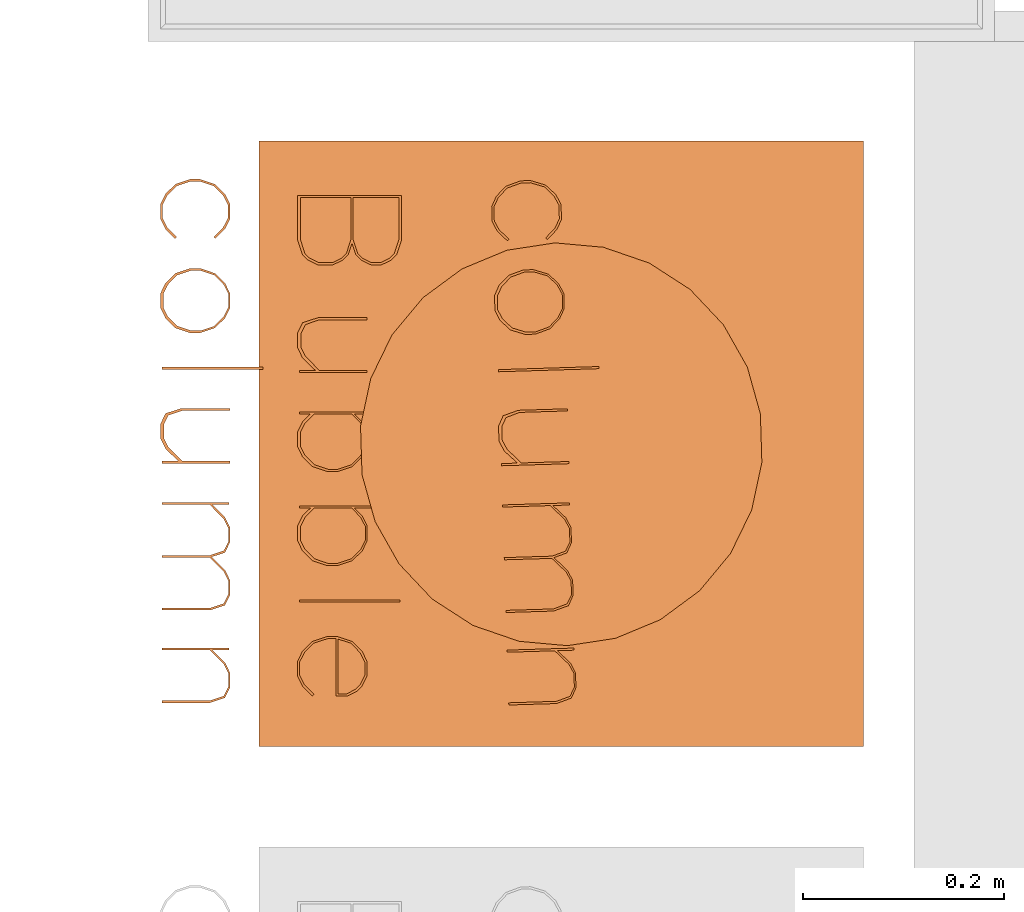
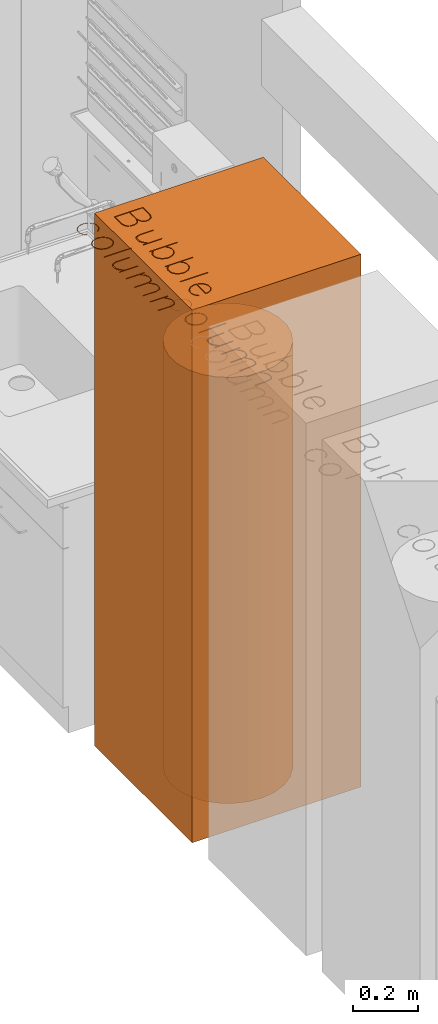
# One storey, part 23 of 43: 2 proxies.
"""IFC2X3 building model written with IfcOpenShell, lengths in metres."""

from ifc_helpers import new_model, entity, si_unit, converted_unit, derived_unit, direction, frame, origin, place, context, subcontext, project, spatial, face_set, surface_model, source, transform, mapped, material, material_list, type_object, type_shapes, element, save


model = new_model("IFC2X3")

# Units and contexts
model_context = context("Model", 3, precision=1e-05, world=origin(), true_north=direction((6.12303176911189e-17, 1.0)))
body_context = subcontext(model_context, "Body", "Model", "MODEL_VIEW")
ifc_project = project(units=[si_unit("LENGTHUNIT", "METRE"), si_unit("AREAUNIT", "SQUARE_METRE"), si_unit("VOLUMEUNIT", "CUBIC_METRE"), converted_unit("PLANEANGLEUNIT", "DEGREE", entity("IfcRatioMeasure", 0.0174532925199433), si_unit("PLANEANGLEUNIT", "RADIAN"), dimensions=[0, 0, 0, 0, 0, 0, 0]), si_unit("MASSUNIT", "GRAM", prefix="KILO"), derived_unit("MASSDENSITYUNIT", [(si_unit("MASSUNIT", "GRAM", prefix="KILO"), 1), (si_unit("LENGTHUNIT", "METRE"), -3)]), derived_unit("MOMENTOFINERTIAUNIT", [(si_unit("LENGTHUNIT", "METRE"), 4)]), si_unit("TIMEUNIT", "SECOND"), si_unit("FREQUENCYUNIT", "HERTZ"), si_unit("THERMODYNAMICTEMPERATUREUNIT", "DEGREE_CELSIUS"), derived_unit("THERMALTRANSMITTANCEUNIT", [(si_unit("MASSUNIT", "GRAM", prefix="KILO"), 1), (si_unit("THERMODYNAMICTEMPERATUREUNIT", "KELVIN"), -1), (si_unit("TIMEUNIT", "SECOND"), -3)]), derived_unit("VOLUMETRICFLOWRATEUNIT", [(si_unit("LENGTHUNIT", "METRE"), 3), (si_unit("TIMEUNIT", "SECOND"), -1)]), si_unit("ELECTRICCURRENTUNIT", "AMPERE"), si_unit("ELECTRICVOLTAGEUNIT", "VOLT"), si_unit("POWERUNIT", "WATT"), si_unit("FORCEUNIT", "NEWTON", prefix="KILO"), si_unit("ILLUMINANCEUNIT", "LUX"), si_unit("LUMINOUSFLUXUNIT", "LUMEN"), si_unit("LUMINOUSINTENSITYUNIT", "CANDELA"), derived_unit("USERDEFINED", [(si_unit("MASSUNIT", "GRAM", prefix="KILO"), -1), (si_unit("LENGTHUNIT", "METRE"), -2), (si_unit("TIMEUNIT", "SECOND"), 3), (si_unit("LUMINOUSFLUXUNIT", "LUMEN"), 1)]), derived_unit("LINEARVELOCITYUNIT", [(si_unit("LENGTHUNIT", "METRE"), 1), (si_unit("TIMEUNIT", "SECOND"), -1)]), si_unit("PRESSUREUNIT", "PASCAL"), derived_unit("USERDEFINED", [(si_unit("LENGTHUNIT", "METRE"), -2), (si_unit("MASSUNIT", "GRAM", prefix="KILO"), 1), (si_unit("TIMEUNIT", "SECOND"), -2)]), derived_unit("LINEARFORCEUNIT", [(si_unit("MASSUNIT", "GRAM", prefix="KILO"), 1), (si_unit("LENGTHUNIT", "METRE"), 1), (si_unit("TIMEUNIT", "SECOND"), -2), (si_unit("LENGTHUNIT", "METRE"), -1)]), derived_unit("PLANARFORCEUNIT", [(si_unit("MASSUNIT", "GRAM", prefix="KILO"), 1), (si_unit("LENGTHUNIT", "METRE"), 1), (si_unit("TIMEUNIT", "SECOND"), -2), (si_unit("LENGTHUNIT", "METRE"), -2)])], contexts=[model_context])

# Site, building, storey
site_placement = place(None, origin())
site = spatial("IfcSite", under=ifc_project, at=site_placement, Name="Default", CompositionType="ELEMENT")
building_placement = place(site_placement, origin())
building = spatial("IfcBuilding", under=site, at=building_placement, CompositionType="ELEMENT")
storey_placement = place(building_placement, frame((0.0, 0.0, 3.0)))
storey = spatial("IfcBuildingStorey", under=building, at=storey_placement, Name="01 OG", CompositionType="ELEMENT", Elevation=3.0)

# Proxies
ifc_material_1 = material(Name="dh_Stellfläche")
building_element_proxy_type_1 = type_object("IfcBuildingElementProxyType", Name="dh_Gerät_Stellfläche Bestand:Nutzergerät", PredefinedType="NOTDEFINED", material=ifc_material_1)
shared_shape_1 = source(origin(), body_context, "Body", "SurfaceModel", [
    surface_model("IfcFaceBasedSurfaceModel", [(-0.199099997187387, -0.507671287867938, 2.005), (-0.187681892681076, -0.503831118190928, 2.005), (-0.182484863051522, -0.498736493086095, 2.005), (-0.177569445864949, -0.488726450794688, 2.005), (-0.177569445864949, -0.478511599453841, 2.005), (-0.182484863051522, -0.468424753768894, 2.005), (-0.187681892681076, -0.46338133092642, 2.005), (-0.202351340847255, -0.458414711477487, 2.005), (-0.246385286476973, -0.458414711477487, 2.005), (-0.246385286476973, -0.561638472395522, 2.005), (-0.202351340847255, -0.561638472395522, 2.005), (-0.187681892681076, -0.556799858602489, 2.005), (-0.182484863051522, -0.551679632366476, 2.005), (-0.177569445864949, -0.541669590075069, 2.005), (-0.177569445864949, -0.526692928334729, 2.005), (-0.182484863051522, -0.516606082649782, 2.005), (-0.187681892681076, -0.511511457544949, 2.005), (-0.202607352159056, -0.508746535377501, 2.005), (-0.188731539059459, -0.513329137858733, 2.005), (-0.184353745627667, -0.517834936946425, 2.005), (-0.179771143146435, -0.52692333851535, 2.005), (-0.179771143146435, -0.540671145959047, 2.005), (-0.184353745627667, -0.549785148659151, 2.005), (-0.188731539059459, -0.554290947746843, 2.005), (-0.202607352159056, -0.558873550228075, 2.005), (-0.244260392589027, -0.558873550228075, 2.005), (-0.244260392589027, -0.508746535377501, 2.005), (-0.244260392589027, -0.506544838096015, 2.005), (-0.244260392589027, -0.461128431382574, 2.005), (-0.202607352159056, -0.461128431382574, 2.005), (-0.188731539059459, -0.465711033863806, 2.005), (-0.184353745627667, -0.470216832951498, 2.005), (-0.179771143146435, -0.479330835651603, 2.005), (-0.179771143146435, -0.488291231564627, 2.005), (-0.184353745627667, -0.497456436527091, 2.005), (-0.188731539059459, -0.501885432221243, 2.005), (-0.202607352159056, -0.506544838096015, 2.005), (-0.0728096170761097, -0.543922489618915, 2.005), (-0.0728096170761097, -0.559999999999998, 2.005), (-0.0706079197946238, -0.559999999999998, 2.005), (-0.0706079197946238, -0.492822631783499, 2.005), (-0.0728096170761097, -0.492822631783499, 2.005), (-0.0728096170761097, -0.540031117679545, 2.005), (-0.0866854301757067, -0.553778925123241, 2.005), (-0.095773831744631, -0.558361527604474, 2.005), (-0.109521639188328, -0.558361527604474, 2.005), (-0.118354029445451, -0.553906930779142, 2.005), (-0.123013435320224, -0.540287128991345, 2.005), (-0.123013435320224, -0.492822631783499, 2.005), (-0.125138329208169, -0.492822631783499, 2.005), (-0.125138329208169, -0.541413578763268, 2.005), (-0.120274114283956, -0.556646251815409, 2.005), (-0.110059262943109, -0.561638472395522, 2.005), (-0.0952362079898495, -0.561638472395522, 2.005), (-0.0852773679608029, -0.556774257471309, 2.005), (-0.0317454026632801, -0.559999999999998, 2.005), (-0.0296205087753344, -0.559999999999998, 2.005), (-0.0296205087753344, -0.548863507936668, 2.005), (-0.0218377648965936, -0.55682545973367, 2.005), (-0.0118789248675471, -0.561638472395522, 2.005), (0.00291852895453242, -0.561638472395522, 2.005), (0.0128261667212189, -0.55682545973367, 2.005), (0.0226570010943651, -0.546866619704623, 2.005), (0.0275724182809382, -0.532094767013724, 2.005), (0.0275724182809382, -0.522212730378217, 2.005), (0.0226570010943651, -0.507440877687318, 2.005), (0.0128261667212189, -0.497482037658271, 2.005), (0.00291852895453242, -0.492617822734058, 2.005), (-0.0118789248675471, -0.492617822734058, 2.005), (-0.0218377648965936, -0.497482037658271, 2.005), (-0.0296205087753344, -0.505367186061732, 2.005), (-0.0296205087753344, -0.460053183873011, 2.005), (-0.0317454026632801, -0.460053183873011, 2.005), (-0.0296205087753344, -0.508004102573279, 2.005), (-0.02045530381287, -0.499043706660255, 2.005), (-0.0113413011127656, -0.494384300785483, 2.005), (0.00240650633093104, -0.494384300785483, 2.005), (0.0114949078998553, -0.499043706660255, 2.005), (0.0207113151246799, -0.50813210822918, 2.005), (0.0253707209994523, -0.522007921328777, 2.005), (0.0253707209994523, -0.531249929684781, 2.005), (0.0207113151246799, -0.545125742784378, 2.005), (0.0114949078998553, -0.554290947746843, 2.005), (0.00240650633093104, -0.558873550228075, 2.005), (-0.0113413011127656, -0.558873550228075, 2.005), (-0.02045530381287, -0.554290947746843, 2.005), (-0.0296205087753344, -0.545253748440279, 2.005), (0.0616475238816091, -0.559999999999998, 2.005), (0.0637724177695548, -0.559999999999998, 2.005), (0.0637724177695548, -0.548863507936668, 2.005), (0.0715551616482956, -0.55682545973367, 2.005), (0.0815140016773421, -0.561638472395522, 2.005), (0.0963114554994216, -0.561638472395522, 2.005), (0.106219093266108, -0.55682545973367, 2.005), (0.116049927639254, -0.546866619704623, 2.005), (0.120965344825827, -0.532094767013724, 2.005), (0.120965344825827, -0.522212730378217, 2.005), (0.116049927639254, -0.507440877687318, 2.005), (0.106219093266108, -0.497482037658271, 2.005), (0.0963114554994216, -0.492617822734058, 2.005), (0.0815140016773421, -0.492617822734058, 2.005), (0.0715551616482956, -0.497482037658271, 2.005), (0.0637724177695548, -0.505367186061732, 2.005), (0.0637724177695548, -0.460053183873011, 2.005), (0.0616475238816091, -0.460053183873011, 2.005), (0.0637724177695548, -0.508004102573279, 2.005), (0.0729376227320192, -0.499043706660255, 2.005), (0.0820516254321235, -0.494384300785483, 2.005), (0.0957994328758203, -0.494384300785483, 2.005), (0.104887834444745, -0.499043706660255, 2.005), (0.114104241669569, -0.50813210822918, 2.005), (0.118763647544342, -0.522007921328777, 2.005), (0.118763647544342, -0.531249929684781, 2.005), (0.114104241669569, -0.545125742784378, 2.005), (0.104887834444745, -0.554290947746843, 2.005), (0.0957994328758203, -0.558873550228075, 2.005), (0.0820516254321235, -0.558873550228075, 2.005), (0.0729376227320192, -0.554290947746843, 2.005), (0.0637724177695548, -0.545253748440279, 2.005), (0.155040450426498, -0.559999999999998, 2.005), (0.157165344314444, -0.559999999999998, 2.005), (0.157165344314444, -0.460053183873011, 2.005), (0.155040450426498, -0.460053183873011, 2.005), (0.250276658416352, -0.547199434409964, 2.005), (0.248612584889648, -0.545535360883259, 2.005), (0.239242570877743, -0.554982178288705, 2.005), (0.230154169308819, -0.559564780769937, 2.005), (0.216406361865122, -0.559564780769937, 2.005), (0.207292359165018, -0.554982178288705, 2.005), (0.197999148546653, -0.54579137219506, 2.005), (0.193416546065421, -0.531889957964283, 2.005), (0.193416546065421, -0.523646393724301, 2.005), (0.250532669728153, -0.523646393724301, 2.005), (0.250532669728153, -0.512714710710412, 2.005), (0.24561725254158, -0.502730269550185, 2.005), (0.240573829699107, -0.497686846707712, 2.005), (0.23066619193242, -0.492822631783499, 2.005), (0.215868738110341, -0.492822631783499, 2.005), (0.205909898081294, -0.497686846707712, 2.005), (0.196155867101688, -0.507671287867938, 2.005), (0.191240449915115, -0.522366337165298, 2.005), (0.191240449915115, -0.532222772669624, 2.005), (0.196155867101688, -0.546917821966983, 2.005), (0.205909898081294, -0.55685106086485, 2.005), (0.215868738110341, -0.561638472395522, 2.005), (0.23066619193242, -0.561638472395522, 2.005), (0.240573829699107, -0.55685106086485, 2.005), (0.193826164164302, -0.521444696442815, 2.005), (0.197999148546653, -0.508746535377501, 2.005), (0.207292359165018, -0.499658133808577, 2.005), (0.216406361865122, -0.494998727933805, 2.005), (0.230154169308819, -0.494998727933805, 2.005), (0.239242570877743, -0.499658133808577, 2.005), (0.243748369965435, -0.504163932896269, 2.005), (0.248330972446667, -0.513277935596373, 2.005), (0.248330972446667, -0.521444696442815, 2.005), (-0.203580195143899, -0.6832458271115, 2.005), (-0.205244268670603, -0.681581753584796, 2.005), (-0.214614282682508, -0.691028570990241, 2.005), (-0.223702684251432, -0.695611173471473, 2.005), (-0.237450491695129, -0.695611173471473, 2.005), (-0.246564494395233, -0.691028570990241, 2.005), (-0.255857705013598, -0.681837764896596, 2.005), (-0.26044030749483, -0.667936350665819, 2.005), (-0.26044030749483, -0.658694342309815, 2.005), (-0.255857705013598, -0.644767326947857, 2.005), (-0.246564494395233, -0.635653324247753, 2.005), (-0.237450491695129, -0.630993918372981, 2.005), (-0.223702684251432, -0.630993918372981, 2.005), (-0.214614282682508, -0.635653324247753, 2.005), (-0.205244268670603, -0.645048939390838, 2.005), (-0.203580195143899, -0.643436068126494, 2.005), (-0.213283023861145, -0.633733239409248, 2.005), (-0.223190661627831, -0.628869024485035, 2.005), (-0.237988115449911, -0.628869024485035, 2.005), (-0.247946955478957, -0.633733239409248, 2.005), (-0.257700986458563, -0.643717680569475, 2.005), (-0.262616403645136, -0.658412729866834, 2.005), (-0.262616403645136, -0.66826916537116, 2.005), (-0.257700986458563, -0.682964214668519, 2.005), (-0.247946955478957, -0.692897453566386, 2.005), (-0.237988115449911, -0.697684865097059, 2.005), (-0.223190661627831, -0.697684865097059, 2.005), (-0.213283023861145, -0.692897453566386, 2.005), (-0.114974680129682, -0.682964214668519, 2.005), (-0.110059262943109, -0.66826916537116, 2.005), (-0.110059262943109, -0.658412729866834, 2.005), (-0.114974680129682, -0.643717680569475, 2.005), (-0.124805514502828, -0.633733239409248, 2.005), (-0.134713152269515, -0.628869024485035, 2.005), (-0.149510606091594, -0.628869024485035, 2.005), (-0.159469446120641, -0.633733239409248, 2.005), (-0.169223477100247, -0.643717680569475, 2.005), (-0.17413889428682, -0.658412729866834, 2.005), (-0.17413889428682, -0.66826916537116, 2.005), (-0.169223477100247, -0.682964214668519, 2.005), (-0.159469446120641, -0.692897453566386, 2.005), (-0.149510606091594, -0.697684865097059, 2.005), (-0.134713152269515, -0.697684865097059, 2.005), (-0.124805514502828, -0.692897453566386, 2.005), (-0.116920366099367, -0.681172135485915, 2.005), (-0.126136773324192, -0.690337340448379, 2.005), (-0.135225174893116, -0.694919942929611, 2.005), (-0.148972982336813, -0.694919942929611, 2.005), (-0.158086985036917, -0.690337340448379, 2.005), (-0.167380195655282, -0.681172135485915, 2.005), (-0.171962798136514, -0.667296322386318, 2.005), (-0.171962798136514, -0.658054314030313, 2.005), (-0.167380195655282, -0.644178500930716, 2.005), (-0.158086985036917, -0.635090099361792, 2.005), (-0.148972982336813, -0.630430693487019, 2.005), (-0.135225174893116, -0.630430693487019, 2.005), (-0.126136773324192, -0.635090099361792, 2.005), (-0.116920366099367, -0.644178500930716, 2.005), (-0.112260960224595, -0.658054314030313, 2.005), (-0.112260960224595, -0.667296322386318, 2.005), (-0.0759841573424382, -0.696046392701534, 2.005), (-0.0738592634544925, -0.696046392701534, 2.005), (-0.0738592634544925, -0.596099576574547, 2.005), (-0.0759841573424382, -0.596099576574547, 2.005), (0.0173063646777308, -0.679968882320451, 2.005), (0.0173063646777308, -0.696046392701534, 2.005), (0.0195080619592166, -0.696046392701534, 2.005), (0.0195080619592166, -0.628869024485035, 2.005), (0.0173063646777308, -0.628869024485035, 2.005), (0.0173063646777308, -0.676077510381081, 2.005), (0.00343055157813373, -0.689825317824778, 2.005), (-0.00565784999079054, -0.69440792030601, 2.005), (-0.0194056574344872, -0.69440792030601, 2.005), (-0.0282380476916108, -0.689953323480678, 2.005), (-0.0328974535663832, -0.676333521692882, 2.005), (-0.0328974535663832, -0.628869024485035, 2.005), (-0.0350223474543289, -0.628869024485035, 2.005), (-0.0350223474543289, -0.677459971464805, 2.005), (-0.0301581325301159, -0.692692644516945, 2.005), (-0.0199432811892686, -0.697684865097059, 2.005), (-0.00512022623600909, -0.697684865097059, 2.005), (0.00483861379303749, -0.692820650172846, 2.005), (0.0583705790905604, -0.696046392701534, 2.005), (0.060495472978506, -0.696046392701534, 2.005), (0.060495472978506, -0.648837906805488, 2.005), (0.0743968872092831, -0.635090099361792, 2.005), (0.0835364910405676, -0.630430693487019, 2.005), (0.0972330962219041, -0.630430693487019, 2.005), (0.106116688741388, -0.634962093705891, 2.005), (0.11069929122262, -0.648556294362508, 2.005), (0.11069929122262, -0.696046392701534, 2.005), (0.112900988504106, -0.696046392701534, 2.005), (0.112900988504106, -0.648837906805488, 2.005), (0.126776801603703, -0.635090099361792, 2.005), (0.135865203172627, -0.630430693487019, 2.005), (0.149613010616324, -0.630430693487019, 2.005), (0.158445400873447, -0.634962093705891, 2.005), (0.16310480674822, -0.648556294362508, 2.005), (0.16310480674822, -0.696046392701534, 2.005), (0.165229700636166, -0.696046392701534, 2.005), (0.165229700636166, -0.648684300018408, 2.005), (0.160365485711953, -0.633810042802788, 2.005), (0.150150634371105, -0.628869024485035, 2.005), (0.135353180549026, -0.628869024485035, 2.005), (0.125394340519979, -0.633682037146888, 2.005), (0.112235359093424, -0.646789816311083, 2.005), (0.107985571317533, -0.633810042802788, 2.005), (0.0978219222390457, -0.628869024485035, 2.005), (0.082947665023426, -0.628869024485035, 2.005), (0.0730656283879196, -0.633682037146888, 2.005), (0.060495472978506, -0.646252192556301, 2.005), (0.060495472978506, -0.629790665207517, 2.005), (0.0583705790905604, -0.629790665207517, 2.005), (0.202556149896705, -0.696046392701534, 2.005), (0.204681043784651, -0.696046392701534, 2.005), (0.204681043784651, -0.648837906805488, 2.005), (0.218582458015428, -0.635090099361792, 2.005), (0.227722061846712, -0.630430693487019, 2.005), (0.241418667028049, -0.630430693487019, 2.005), (0.250302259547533, -0.634962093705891, 2.005), (0.254884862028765, -0.648556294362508, 2.005), (0.254884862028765, -0.696046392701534, 2.005), (0.257086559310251, -0.696046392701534, 2.005), (0.257086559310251, -0.648684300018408, 2.005), (0.252171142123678, -0.633810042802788, 2.005), (0.24200749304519, -0.628869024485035, 2.005), (0.227133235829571, -0.628869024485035, 2.005), (0.217251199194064, -0.633682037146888, 2.005), (0.204681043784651, -0.646252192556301, 2.005), (0.204681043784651, -0.629790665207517, 2.005), (0.202556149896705, -0.629790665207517, 2.005), (0.300483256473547, 0.0, 2.0), (0.300483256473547, -0.600000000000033, 2.0), (-0.300483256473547, -0.600000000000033, 2.0), (-0.300483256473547, 0.0, 2.0), (0.300483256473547, 0.0, 0.0), (0.300483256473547, -0.600000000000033, 0.0), (-0.300483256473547, -0.600000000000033, 0.0), (-0.300483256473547, 0.0, 0.0)], [face_set([[[0, 1, 2, 3, 4, 5, 6, 7, 8, 9, 10, 11, 12, 13, 14, 15, 16], [17, 18, 19, 20, 21, 22, 23, 24, 25, 26], [27, 28, 29, 30, 31, 32, 33, 34, 35, 36]]]), face_set([[[37, 38, 39, 40, 41, 42, 43, 44, 45, 46, 47, 48, 49, 50, 51, 52, 53, 54]]]), face_set([[[55, 56, 57, 58, 59, 60, 61, 62, 63, 64, 65, 66, 67, 68, 69, 70, 71, 72], [73, 74, 75, 76, 77, 78, 79, 80, 81, 82, 83, 84, 85, 86]]]), face_set([[[87, 88, 89, 90, 91, 92, 93, 94, 95, 96, 97, 98, 99, 100, 101, 102, 103, 104], [105, 106, 107, 108, 109, 110, 111, 112, 113, 114, 115, 116, 117, 118]]]), face_set([[[119, 120, 121, 122]]]), face_set([[[123, 124, 125, 126, 127, 128, 129, 130, 131, 132, 133, 134, 135, 136, 137, 138, 139, 140, 141, 142, 143, 144, 145, 146], [147, 148, 149, 150, 151, 152, 153, 154, 155]]]), face_set([[[156, 157, 158, 159, 160, 161, 162, 163, 164, 165, 166, 167, 168, 169, 170, 171, 172, 173, 174, 175, 176, 177, 178, 179, 180, 181, 182, 183]]]), face_set([[[184, 185, 186, 187, 188, 189, 190, 191, 192, 193, 194, 195, 196, 197, 198, 199], [200, 201, 202, 203, 204, 205, 206, 207, 208, 209, 210, 211, 212, 213, 214, 215]]]), face_set([[[216, 217, 218, 219]]]), face_set([[[220, 221, 222, 223, 224, 225, 226, 227, 228, 229, 230, 231, 232, 233, 234, 235, 236, 237]]]), face_set([[[238, 239, 240, 241, 242, 243, 244, 245, 246, 247, 248, 249, 250, 251, 252, 253, 254, 255, 256, 257, 258, 259, 260, 261, 262, 263, 264, 265, 266, 267, 268]]]), face_set([[[269, 270, 271, 272, 273, 274, 275, 276, 277, 278, 279, 280, 281, 282, 283, 284, 285, 286]]]), face_set([[[287, 288, 289, 290]], [[291, 292, 293, 294]], [[290, 287, 291, 294]], [[289, 290, 294, 293]], [[288, 292, 293, 289]], [[287, 288, 292, 291]]])]),
])
type_shapes(building_element_proxy_type_1, [shared_shape_1])
proxy_1_placement = place(storey_placement, frame((16.8600000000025, 14.4244832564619, 0.7), z_axis=(0.0, 0.0, 1.0), x_axis=(0.0, -1.0, 0.0)))
element("IfcBuildingElementProxy", 1, at=proxy_1_placement, inside=storey, type_object=building_element_proxy_type_1, material=ifc_material_1, Name="dh_Gerät_Stellfläche Bestand:Nutzergerät", ObjectType="dh_Gerät_Stellfläche Bestand:Nutzergerät", context=body_context, shape_type="MappedRepresentation", body=[
    mapped(shared_shape_1, transform((0.0, 0.0, 0.0), scale=1.0)),
])
ifc_material_2 = material(Name="Kunststoff, undurchsichtig schwarz")
ifc_material_list = material_list([ifc_material_2, ifc_material_1])
building_element_proxy_type_2 = type_object("IfcBuildingElementProxyType", Name="dh_Gerät_Stellfläche Bestand_rund:Nutzergerät", PredefinedType="NOTDEFINED", material=ifc_material_list)
shared_shape_2 = source(origin(), body_context, "Body", "SurfaceModel", [
    surface_model("IfcFaceBasedSurfaceModel", [(0.0590362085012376, 0.152937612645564, 1.605), (0.0573721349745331, 0.154601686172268, 1.605), (0.0480021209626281, 0.145154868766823, 1.605), (0.0389137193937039, 0.140572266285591, 1.605), (0.0251659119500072, 0.140572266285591, 1.605), (0.0160519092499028, 0.145154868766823, 1.605), (0.00675869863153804, 0.154345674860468, 1.605), (0.00217609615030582, 0.168247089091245, 1.605), (0.00217609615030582, 0.177489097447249, 1.605), (0.00675869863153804, 0.191416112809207, 1.605), (0.0160519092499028, 0.200530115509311, 1.605), (0.0251659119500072, 0.205189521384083, 1.605), (0.0389137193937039, 0.205189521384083, 1.605), (0.0480021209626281, 0.200530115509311, 1.605), (0.0573721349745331, 0.191134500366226, 1.605), (0.0590362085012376, 0.19274737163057, 1.605), (0.0493333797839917, 0.202450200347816, 1.605), (0.0394257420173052, 0.207314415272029, 1.605), (0.0246282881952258, 0.207314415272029, 1.605), (0.0146694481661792, 0.202450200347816, 1.605), (0.00491541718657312, 0.192465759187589, 1.605), (0.0, 0.17777070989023, 1.605), (0.0, 0.167914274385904, 1.605), (0.00491541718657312, 0.153219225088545, 1.605), (0.0146694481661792, 0.143285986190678, 1.605), (0.0246282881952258, 0.138498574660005, 1.605), (0.0394257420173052, 0.138498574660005, 1.605), (0.0493333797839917, 0.143285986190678, 1.605), (0.147641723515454, 0.153219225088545, 1.605), (0.152557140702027, 0.167914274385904, 1.605), (0.152557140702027, 0.17777070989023, 1.605), (0.147641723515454, 0.192465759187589, 1.605), (0.137810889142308, 0.202450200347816, 1.605), (0.127903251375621, 0.207314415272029, 1.605), (0.113105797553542, 0.207314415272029, 1.605), (0.103146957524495, 0.202450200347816, 1.605), (0.0933929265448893, 0.192465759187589, 1.605), (0.0884775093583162, 0.17777070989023, 1.605), (0.0884775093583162, 0.167914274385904, 1.605), (0.0933929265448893, 0.153219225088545, 1.605), (0.103146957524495, 0.143285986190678, 1.605), (0.113105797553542, 0.138498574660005, 1.605), (0.127903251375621, 0.138498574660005, 1.605), (0.137810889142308, 0.143285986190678, 1.605), (0.145696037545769, 0.155011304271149, 1.605), (0.136479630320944, 0.145846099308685, 1.605), (0.12739122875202, 0.141263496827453, 1.605), (0.113643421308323, 0.141263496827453, 1.605), (0.104529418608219, 0.145846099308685, 1.605), (0.0952362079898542, 0.155011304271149, 1.605), (0.0906536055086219, 0.168887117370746, 1.605), (0.0906536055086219, 0.178129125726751, 1.605), (0.0952362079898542, 0.192004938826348, 1.605), (0.104529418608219, 0.201093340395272, 1.605), (0.113643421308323, 0.205752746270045, 1.605), (0.12739122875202, 0.205752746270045, 1.605), (0.136479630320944, 0.201093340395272, 1.605), (0.145696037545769, 0.192004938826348, 1.605), (0.150355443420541, 0.178129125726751, 1.605), (0.150355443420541, 0.168887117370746, 1.605), (0.186632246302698, 0.14013704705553, 1.605), (0.188757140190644, 0.14013704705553, 1.605), (0.188757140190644, 0.240083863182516, 1.605), (0.186632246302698, 0.240083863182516, 1.605), (0.279922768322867, 0.156214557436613, 1.605), (0.279922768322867, 0.14013704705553, 1.605), (0.282124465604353, 0.14013704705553, 1.605), (0.282124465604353, 0.207314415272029, 1.605), (0.279922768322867, 0.207314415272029, 1.605), (0.279922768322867, 0.160105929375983, 1.605), (0.26604695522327, 0.146358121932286, 1.605), (0.256958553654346, 0.141775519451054, 1.605), (0.243210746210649, 0.141775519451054, 1.605), (0.234378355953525, 0.146230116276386, 1.605), (0.229718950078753, 0.159849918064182, 1.605), (0.229718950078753, 0.207314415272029, 1.605), (0.227594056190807, 0.207314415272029, 1.605), (0.227594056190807, 0.158723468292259, 1.605), (0.23245827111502, 0.143490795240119, 1.605), (0.242673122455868, 0.138498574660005, 1.605), (0.257496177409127, 0.138498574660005, 1.605), (0.267455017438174, 0.143362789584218, 1.605), (0.320986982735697, 0.14013704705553, 1.605), (0.323111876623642, 0.14013704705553, 1.605), (0.323111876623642, 0.187345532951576, 1.605), (0.337013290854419, 0.201093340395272, 1.605), (0.346152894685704, 0.205752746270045, 1.605), (0.35984949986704, 0.205752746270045, 1.605), (0.368733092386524, 0.201221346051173, 1.605), (0.373315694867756, 0.187627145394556, 1.605), (0.373315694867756, 0.14013704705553, 1.605), (0.375517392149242, 0.14013704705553, 1.605), (0.375517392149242, 0.187345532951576, 1.605), (0.389393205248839, 0.201093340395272, 1.605), (0.398481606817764, 0.205752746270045, 1.605), (0.41222941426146, 0.205752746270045, 1.605), (0.421061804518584, 0.201221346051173, 1.605), (0.425721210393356, 0.187627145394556, 1.605), (0.425721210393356, 0.14013704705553, 1.605), (0.427846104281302, 0.14013704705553, 1.605), (0.427846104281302, 0.187499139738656, 1.605), (0.422981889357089, 0.202373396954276, 1.605), (0.412767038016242, 0.207314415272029, 1.605), (0.397969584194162, 0.207314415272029, 1.605), (0.388010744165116, 0.202501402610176, 1.605), (0.37485176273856, 0.189393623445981, 1.605), (0.370601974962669, 0.202373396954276, 1.605), (0.360438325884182, 0.207314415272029, 1.605), (0.345564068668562, 0.207314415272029, 1.605), (0.335682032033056, 0.202501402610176, 1.605), (0.323111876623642, 0.189931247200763, 1.605), (0.323111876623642, 0.206392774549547, 1.605), (0.320986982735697, 0.206392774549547, 1.605), (0.465172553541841, 0.14013704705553, 1.605), (0.467297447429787, 0.14013704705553, 1.605), (0.467297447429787, 0.187345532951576, 1.605), (0.481198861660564, 0.201093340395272, 1.605), (0.490338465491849, 0.205752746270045, 1.605), (0.504035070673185, 0.205752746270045, 1.605), (0.512918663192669, 0.201221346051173, 1.605), (0.517501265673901, 0.187627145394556, 1.605), (0.517501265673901, 0.14013704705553, 1.605), (0.519702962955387, 0.14013704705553, 1.605), (0.519702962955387, 0.187499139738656, 1.605), (0.514787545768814, 0.202373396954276, 1.605), (0.504623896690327, 0.207314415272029, 1.605), (0.489749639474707, 0.207314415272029, 1.605), (0.479867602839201, 0.202501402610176, 1.605), (0.467297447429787, 0.189931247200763, 1.605), (0.467297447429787, 0.206392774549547, 1.605), (0.465172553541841, 0.206392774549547, 1.605)], [face_set([[[0, 1, 2, 3, 4, 5, 6, 7, 8, 9, 10, 11, 12, 13, 14, 15, 16, 17, 18, 19, 20, 21, 22, 23, 24, 25, 26, 27]]]), face_set([[[28, 29, 30, 31, 32, 33, 34, 35, 36, 37, 38, 39, 40, 41, 42, 43], [44, 45, 46, 47, 48, 49, 50, 51, 52, 53, 54, 55, 56, 57, 58, 59]]]), face_set([[[60, 61, 62, 63]]]), face_set([[[64, 65, 66, 67, 68, 69, 70, 71, 72, 73, 74, 75, 76, 77, 78, 79, 80, 81]]]), face_set([[[82, 83, 84, 85, 86, 87, 88, 89, 90, 91, 92, 93, 94, 95, 96, 97, 98, 99, 100, 101, 102, 103, 104, 105, 106, 107, 108, 109, 110, 111, 112]]]), face_set([[[113, 114, 115, 116, 117, 118, 119, 120, 121, 122, 123, 124, 125, 126, 127, 128, 129, 130]]])]),
    surface_model("IfcFaceBasedSurfaceModel", [(0.462616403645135, 0.200137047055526, 1.6), (0.456804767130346, 0.152273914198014, 1.6), (0.439707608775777, 0.107192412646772, 1.6), (0.412318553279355, 0.067512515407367, 1.6), (0.376229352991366, 0.035540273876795, 1.6), (0.333537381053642, 0.0131337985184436, 1.6), (0.286723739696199, 0.00159527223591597, 1.6), (0.23850906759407, 0.00159527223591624, 1.6), (0.191695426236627, 0.0131337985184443, 1.6), (0.149003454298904, 0.0355402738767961, 1.6), (0.112914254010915, 0.0675125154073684, 1.6), (0.0855251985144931, 0.107192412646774, 1.6), (0.0684280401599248, 0.152273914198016, 1.6), (0.0626164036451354, 0.200137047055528, 1.6), (0.0684280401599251, 0.248000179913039, 1.6), (0.0855251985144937, 0.293081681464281, 1.6), (0.112914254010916, 0.332761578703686, 1.6), (0.149003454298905, 0.364733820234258, 1.6), (0.191695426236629, 0.38714029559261, 1.6), (0.238509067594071, 0.398678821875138, 1.6), (0.2867237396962, 0.398678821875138, 1.6), (0.333537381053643, 0.38714029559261, 1.6), (0.376229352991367, 0.364733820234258, 1.6), (0.412318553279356, 0.332761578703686, 1.6), (0.439707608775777, 0.293081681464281, 1.6), (0.456804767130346, 0.248000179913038, 1.6), (0.462616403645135, 0.200137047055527, 0.0), (0.456804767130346, 0.152273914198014, 0.0), (0.439707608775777, 0.107192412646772, 0.0), (0.412318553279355, 0.067512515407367, 0.0), (0.376229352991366, 0.035540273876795, 0.0), (0.333537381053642, 0.0131337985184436, 0.0), (0.286723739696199, 0.00159527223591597, 0.0), (0.23850906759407, 0.00159527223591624, 0.0), (0.191695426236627, 0.0131337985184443, 0.0), (0.149003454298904, 0.0355402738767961, 0.0), (0.112914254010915, 0.0675125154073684, 0.0), (0.0855251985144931, 0.107192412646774, 0.0), (0.0684280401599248, 0.152273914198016, 0.0), (0.0626164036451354, 0.200137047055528, 0.0), (0.0684280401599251, 0.248000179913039, 0.0), (0.0855251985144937, 0.293081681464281, 0.0), (0.112914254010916, 0.332761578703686, 0.0), (0.149003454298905, 0.364733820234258, 0.0), (0.191695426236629, 0.38714029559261, 0.0), (0.238509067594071, 0.398678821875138, 0.0), (0.2867237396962, 0.398678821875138, 0.0), (0.333537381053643, 0.38714029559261, 0.0), (0.376229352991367, 0.364733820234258, 0.0), (0.412318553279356, 0.332761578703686, 0.0), (0.439707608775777, 0.293081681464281, 0.0), (0.456804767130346, 0.248000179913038, 0.0)], [face_set([[[0, 1, 2, 3, 4, 5, 6, 7, 8, 9, 10, 11, 12, 13, 14, 15, 16, 17, 18, 19, 20, 21, 22, 23, 24, 25]], [[26, 27, 28, 29, 30, 31, 32, 33, 34, 35, 36, 37, 38, 39, 40, 41, 42, 43, 44, 45, 46, 47, 48, 49, 50, 51]], [[13, 39, 38, 12]], [[12, 38, 37, 11]], [[9, 35, 34, 8]], [[10, 36, 35, 9]], [[11, 37, 36, 10]], [[8, 34, 33, 7]], [[7, 33, 32, 6]], [[6, 32, 31, 5]], [[5, 31, 30, 4]], [[2, 28, 27, 1]], [[3, 29, 28, 2]], [[4, 30, 29, 3]], [[1, 27, 26, 0]], [[25, 51, 50, 24]], [[26, 51, 25, 0]], [[22, 48, 47, 21]], [[23, 49, 48, 22]], [[24, 50, 49, 23]], [[21, 47, 46, 20]], [[20, 46, 45, 19]], [[19, 45, 44, 18]], [[18, 44, 43, 17]], [[15, 41, 40, 14]], [[16, 42, 41, 15]], [[17, 43, 42, 16]], [[14, 40, 39, 13]]])]),
])
type_shapes(building_element_proxy_type_2, [shared_shape_2])
proxy_2_placement = place(storey_placement, frame((16.35185157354, 14.6803131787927, 0.7), z_axis=(0.0, 0.0, 1.0), x_axis=(0.0308691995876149, -0.999523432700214, 0.0)))
element("IfcBuildingElementProxy", 2, at=proxy_2_placement, inside=storey, type_object=building_element_proxy_type_2, material=ifc_material_1, Name="dh_Gerät_Stellfläche Bestand_rund:Nutzergerät", ObjectType="dh_Gerät_Stellfläche Bestand_rund:Nutzergerät", context=body_context, shape_type="MappedRepresentation", body=[
    mapped(shared_shape_2, transform((0.0, 0.0, 0.0), scale=1.0)),
])

save(model, "model.ifc")
